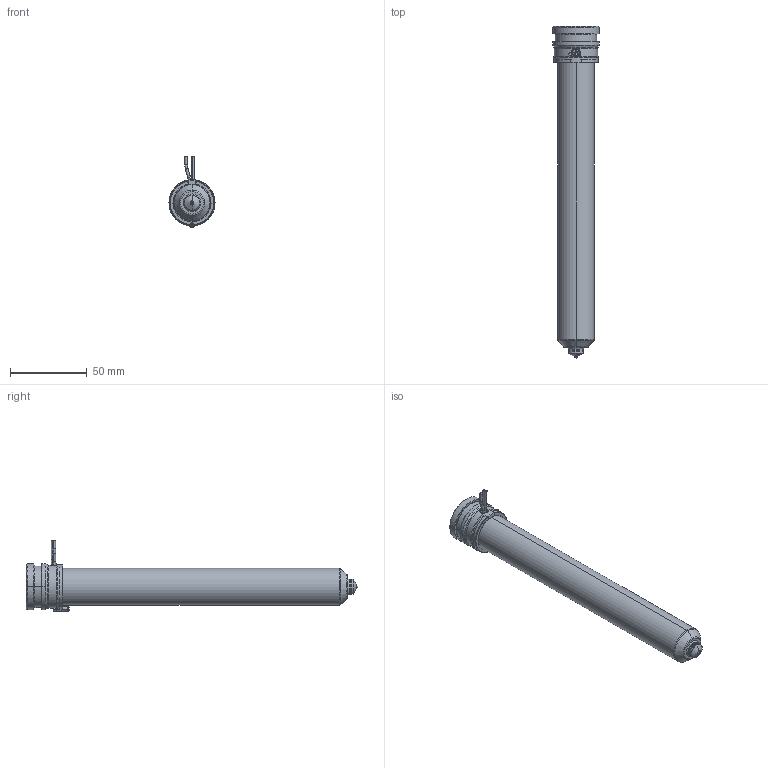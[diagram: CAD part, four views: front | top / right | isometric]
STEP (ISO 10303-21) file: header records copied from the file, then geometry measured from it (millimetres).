
FILE_DESCRIPTION((''),'2;1');
FILE_NAME('MPN-10-29-TS10-196-A','2026-02-05T12:34:06',('UPTIO'),('Thermoplay S.p.A.'),'CREO PARAMETRIC BY PTC INC, 2023494','CREO PARAMETRIC BY PTC INC, 2023494','');
FILE_SCHEMA(('CONFIG_CONTROL_DESIGN','SHAPE_APPEARANCE_LAYERS_GROUPS'));
Length unit declared in the file: millimetre
Products named in the file (1): MPN-10-29-TS10-196-A
Bounding box: 30 x 216 x 46 mm (x, y, z)
Volume: 66920.4 mm3; surface area: 67823.9 mm2
Topology: 2 solids, 3 shells, 552 faces, 1455 edges, 898 vertices
Faces by surface type: cylinder 180, plane 145, bspline 78, torus 68, cone 66, sphere 11, extrusion 4
Entity records: 31297 total; most frequent: CARTESIAN_POINT 14918, ORIENTED_EDGE 2894, DIRECTION 2651, EDGE_CURVE 1447, AXIS2_PLACEMENT_3D 1051, VERTEX_POINT 898, EDGE_LOOP 581, CIRCLE 580
